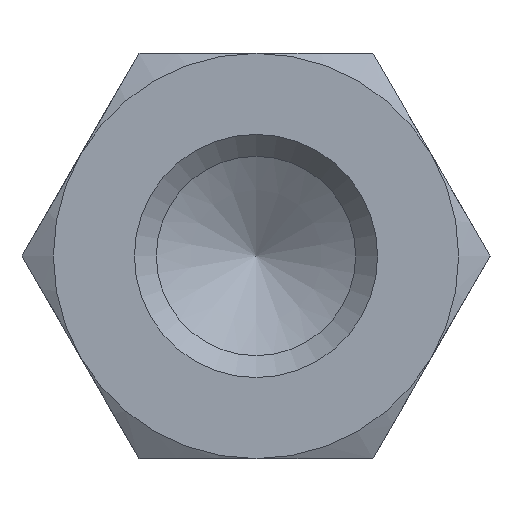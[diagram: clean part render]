
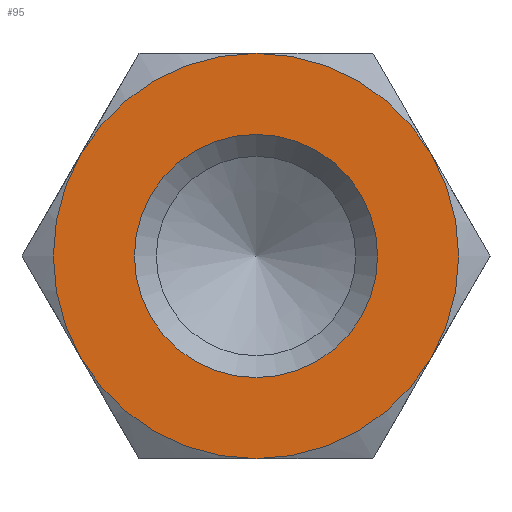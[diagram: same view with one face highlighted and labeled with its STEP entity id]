
A CAD part, left-side view. The second image highlights one B-rep face of the part: STEP entity #95.
In plain terms, the highlighted planar face has unit normal (-1, 0, 0).
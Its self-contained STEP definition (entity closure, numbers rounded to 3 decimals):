
#95 = ADVANCED_FACE( '', ( #147, #148 ), #149, .F. );
#147 = FACE_OUTER_BOUND( '', #206, .T. );
#148 = FACE_BOUND( '', #207, .T. );
#149 = PLANE( '', #208 );
#206 = EDGE_LOOP( '', ( #356, #357, #358, #359, #360, #361 ) );
#207 = EDGE_LOOP( '', ( #362 ) );
#208 = AXIS2_PLACEMENT_3D( '', #363, #364, #365 );
#356 = ORIENTED_EDGE( '', *, *, #440, .F. );
#357 = ORIENTED_EDGE( '', *, *, #425, .F. );
#358 = ORIENTED_EDGE( '', *, *, #441, .F. );
#359 = ORIENTED_EDGE( '', *, *, #437, .F. );
#360 = ORIENTED_EDGE( '', *, *, #442, .F. );
#361 = ORIENTED_EDGE( '', *, *, #443, .F. );
#362 = ORIENTED_EDGE( '', *, *, #439, .T. );
#363 = CARTESIAN_POINT( '', ( -70., 0., 0. ) );
#364 = DIRECTION( '', ( 1., 0., 0. ) );
#365 = DIRECTION( '', ( 0., 0., -1. ) );
#425 = EDGE_CURVE( '', #495, #493, #497, .T. );
#437 = EDGE_CURVE( '', #447, #506, #513, .T. );
#439 = EDGE_CURVE( '', #516, #516, #517, .T. );
#440 = EDGE_CURVE( '', #493, #486, #518, .T. );
#441 = EDGE_CURVE( '', #506, #495, #519, .T. );
#442 = EDGE_CURVE( '', #481, #447, #520, .T. );
#443 = EDGE_CURVE( '', #486, #481, #521, .T. );
#447 = VERTEX_POINT( '', #525 );
#481 = VERTEX_POINT( '', #601 );
#486 = VERTEX_POINT( '', #617 );
#493 = VERTEX_POINT( '', #642 );
#495 = VERTEX_POINT( '', #647 );
#497 = CIRCLE( '', #654, 5. );
#506 = VERTEX_POINT( '', #680 );
#513 = CIRCLE( '', #717, 5. );
#516 = VERTEX_POINT( '', #720 );
#517 = CIRCLE( '', #721, 3. );
#518 = CIRCLE( '', #722, 5. );
#519 = CIRCLE( '', #723, 5. );
#520 = CIRCLE( '', #724, 5. );
#521 = CIRCLE( '', #725, 5. );
#525 = CARTESIAN_POINT( '', ( -70., -4.33, 2.5 ) );
#601 = CARTESIAN_POINT( '', ( -70., 0., 5. ) );
#617 = CARTESIAN_POINT( '', ( -70., 4.33, 2.5 ) );
#642 = CARTESIAN_POINT( '', ( -70., 4.33, -2.5 ) );
#647 = CARTESIAN_POINT( '', ( -70., 0., -5. ) );
#654 = AXIS2_PLACEMENT_3D( '', #760, #761, #762 );
#680 = CARTESIAN_POINT( '', ( -70., -4.33, -2.5 ) );
#717 = AXIS2_PLACEMENT_3D( '', #765, #766, #767 );
#720 = CARTESIAN_POINT( '', ( -70., 0., -3. ) );
#721 = AXIS2_PLACEMENT_3D( '', #771, #772, #773 );
#722 = AXIS2_PLACEMENT_3D( '', #774, #775, #776 );
#723 = AXIS2_PLACEMENT_3D( '', #777, #778, #779 );
#724 = AXIS2_PLACEMENT_3D( '', #780, #781, #782 );
#725 = AXIS2_PLACEMENT_3D( '', #783, #784, #785 );
#760 = CARTESIAN_POINT( '', ( -70., 0., 0. ) );
#761 = DIRECTION( '', ( 1., 0., 0. ) );
#762 = DIRECTION( '', ( 0., 0., -1. ) );
#765 = CARTESIAN_POINT( '', ( -70., 0., 0. ) );
#766 = DIRECTION( '', ( 1., 0., 0. ) );
#767 = DIRECTION( '', ( 0., 0., -1. ) );
#771 = CARTESIAN_POINT( '', ( -70., 0., 0. ) );
#772 = DIRECTION( '', ( 1., 0., 0. ) );
#773 = DIRECTION( '', ( 0., 0., -1. ) );
#774 = CARTESIAN_POINT( '', ( -70., 0., 0. ) );
#775 = DIRECTION( '', ( 1., 0., 0. ) );
#776 = DIRECTION( '', ( 0., 0., -1. ) );
#777 = CARTESIAN_POINT( '', ( -70., 0., 0. ) );
#778 = DIRECTION( '', ( 1., 0., 0. ) );
#779 = DIRECTION( '', ( 0., 0., -1. ) );
#780 = CARTESIAN_POINT( '', ( -70., 0., 0. ) );
#781 = DIRECTION( '', ( 1., 0., 0. ) );
#782 = DIRECTION( '', ( 0., 0., -1. ) );
#783 = CARTESIAN_POINT( '', ( -70., 0., 0. ) );
#784 = DIRECTION( '', ( 1., 0., 0. ) );
#785 = DIRECTION( '', ( 0., 0., -1. ) );
